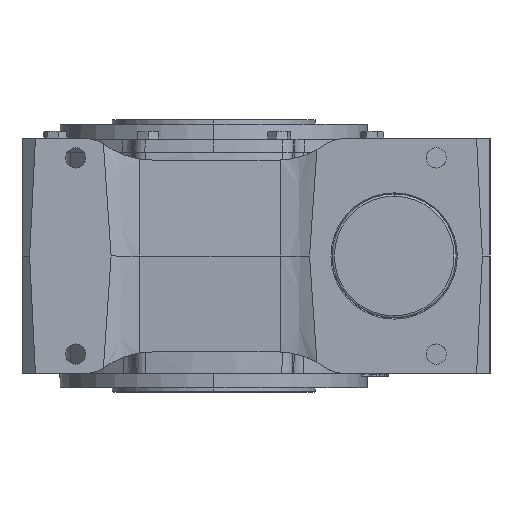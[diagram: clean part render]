
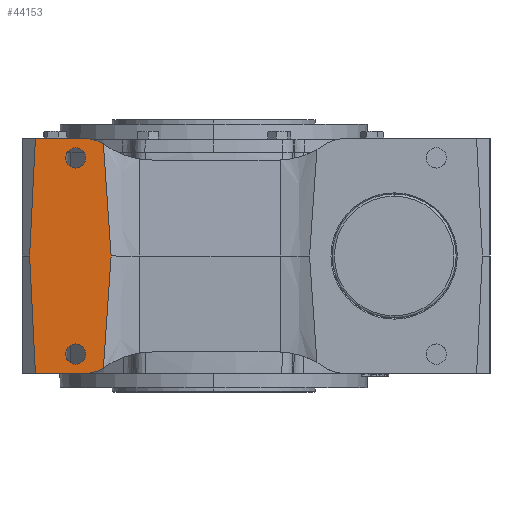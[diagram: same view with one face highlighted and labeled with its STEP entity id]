
A CAD part, left-side view. The second image highlights one B-rep face of the part: STEP entity #44153.
In plain terms, the highlighted planar face has unit normal (-1, 0, 0).
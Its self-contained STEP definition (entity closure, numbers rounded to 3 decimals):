
#3285 = EDGE_LOOP ( 'NONE', ( #31544, #20639 ) ) ;
#6753 = CARTESIAN_POINT ( 'NONE',  ( -170., 122.5, 78. ) ) ;
#10464 = AXIS2_PLACEMENT_3D ( 'NONE', #34546, #86710, #42084 ) ;
#11167 = CARTESIAN_POINT ( 'NONE',  ( -170., 163.234, 0. ) ) ;
#11249 = VERTEX_POINT ( 'NONE', #56914 ) ;
#11503 = AXIS2_PLACEMENT_3D ( 'NONE', #64126, #19492, #71647 ) ;
#13169 = DIRECTION ( 'NONE',  ( -1., 0., 0. ) ) ;
#15892 = CARTESIAN_POINT ( 'NONE',  ( -170., 91.006, 0. ) ) ;
#18156 = VERTEX_POINT ( 'NONE', #20818 ) ;
#19492 = DIRECTION ( 'NONE',  ( -1., 0., 0. ) ) ;
#19786 = VECTOR ( 'NONE', #31180, 1000. ) ;
#20088 = DIRECTION ( 'NONE',  ( 0., -0.049, 0.999 ) ) ;
#20639 = ORIENTED_EDGE ( 'NONE', *, *, #68352, .F. ) ;
#20818 = CARTESIAN_POINT ( 'NONE',  ( -170., 122.5, -78. ) ) ;
#22950 = CARTESIAN_POINT ( 'NONE',  ( -170., 91.006, 0. ) ) ;
#23999 = VERTEX_POINT ( 'NONE', #38715 ) ;
#24427 = CARTESIAN_POINT ( 'NONE',  ( -170., 93.44, -33.115 ) ) ;
#25382 = VERTEX_POINT ( 'NONE', #41589 ) ;
#27814 = ORIENTED_EDGE ( 'NONE', *, *, #68005, .F. ) ;
#28811 = CARTESIAN_POINT ( 'NONE',  ( -170., 122.5, 87. ) ) ;
#29130 = VERTEX_POINT ( 'NONE', #52872 ) ;
#30592 = VECTOR ( 'NONE', #20088, 1000. ) ;
#30864 = EDGE_LOOP ( 'NONE', ( #72453, #94713, #27814, #48026, #67963, #84756, #78369, #86272 ) ) ;
#30873 = CARTESIAN_POINT ( 'NONE',  ( -170., 95.711, 66.242 ) ) ;
#31180 = DIRECTION ( 'NONE',  ( 0., 1., 0. ) ) ;
#31434 = VERTEX_POINT ( 'NONE', #54899 ) ;
#31544 = ORIENTED_EDGE ( 'NONE', *, *, #33011, .F. ) ;
#31830 = CIRCLE ( 'NONE', #76013, 9. ) ;
#31923 = CARTESIAN_POINT ( 'NONE',  ( -170., 96.799, -82.808 ) ) ;
#33011 = EDGE_CURVE ( 'NONE', #31434, #92208, #31830, .T. ) ;
#34546 = CARTESIAN_POINT ( 'NONE',  ( -170., 113.851, 74. ) ) ;
#35657 = CIRCLE ( 'NONE', #10464, 30. ) ;
#36296 = DIRECTION ( 'NONE',  ( 0., 0., 1. ) ) ;
#36872 = CARTESIAN_POINT ( 'NONE',  ( -170., 113.851, -74. ) ) ;
#37743 = EDGE_CURVE ( 'NONE', #18156, #29130, #54098, .T. ) ;
#38401 = CARTESIAN_POINT ( 'NONE',  ( -170., 97.852, 99.377 ) ) ;
#38715 = CARTESIAN_POINT ( 'NONE',  ( -170., 97.852, 99.377 ) ) ;
#39492 = CARTESIAN_POINT ( 'NONE',  ( -170., 170., 149. ) ) ;
#39712 = VECTOR ( 'NONE', #66507, 1000. ) ;
#41227 = EDGE_CURVE ( 'NONE', #29130, #18156, #67656, .T. ) ;
#41589 = CARTESIAN_POINT ( 'NONE',  ( -170., 113.851, -104. ) ) ;
#41760 = EDGE_CURVE ( 'NONE', #25382, #49657, #41965, .T. ) ;
#41965 = LINE ( 'NONE', #46193, #19786 ) ;
#42067 = LINE ( 'NONE', #59029, #39712 ) ;
#42084 = DIRECTION ( 'NONE',  ( 0., 1., 0. ) ) ;
#42593 = DIRECTION ( 'NONE',  ( -1., 0., 0. ) ) ;
#42612 = AXIS2_PLACEMENT_3D ( 'NONE', #87218, #42593, #94722 ) ;
#44153 = ADVANCED_FACE ( 'NONE', ( #91790, #59177, #54493 ), #61954, .F. ) ;
#44403 = DIRECTION ( 'NONE',  ( 0., 1., 0. ) ) ;
#44615 = CARTESIAN_POINT ( 'NONE',  ( -170., 113.851, 104. ) ) ;
#46193 = CARTESIAN_POINT ( 'NONE',  ( -170., 64.974, -104. ) ) ;
#46229 = CARTESIAN_POINT ( 'NONE',  ( -170., 158.098, 104. ) ) ;
#46480 = EDGE_CURVE ( 'NONE', #95025, #11249, #92835, .T. ) ;
#47313 = DIRECTION ( 'NONE',  ( 0., 1., 0. ) ) ;
#48026 = ORIENTED_EDGE ( 'NONE', *, *, #89949, .F. ) ;
#48654 = ORIENTED_EDGE ( 'NONE', *, *, #37743, .F. ) ;
#48926 = AXIS2_PLACEMENT_3D ( 'NONE', #36872, #89036, #44403 ) ;
#49657 = VERTEX_POINT ( 'NONE', #86255 ) ;
#50135 = VERTEX_POINT ( 'NONE', #11167 ) ;
#50654 = LINE ( 'NONE', #52347, #87974 ) ;
#52347 = CARTESIAN_POINT ( 'NONE',  ( -170., 158.159, -102.763 ) ) ;
#52872 = CARTESIAN_POINT ( 'NONE',  ( -170., 122.5, -96. ) ) ;
#54098 = CIRCLE ( 'NONE', #42612, 9. ) ;
#54493 = FACE_OUTER_BOUND ( 'NONE', #30864, .T. ) ;
#54899 = CARTESIAN_POINT ( 'NONE',  ( -170., 122.5, 96. ) ) ;
#56914 = CARTESIAN_POINT ( 'NONE',  ( -170., 97.852, -99.377 ) ) ;
#57781 = B_SPLINE_CURVE_WITH_KNOTS ( 'NONE', 3,
 ( #15892, #60554, #75547, #30873, #83019, #38401 ),
 .UNSPECIFIED., .F., .F.,
 ( 4, 2, 4 ),
 ( 0.098, 0.147, 0.197 ),
 .UNSPECIFIED. ) ;
#57815 = CARTESIAN_POINT ( 'NONE',  ( -170., 122.5, -87. ) ) ;
#58598 = ORIENTED_EDGE ( 'NONE', *, *, #41227, .F. ) ;
#59029 = CARTESIAN_POINT ( 'NONE',  ( -170., 64.974, 104. ) ) ;
#59177 = FACE_BOUND ( 'NONE', #3285, .T. ) ;
#59844 = DIRECTION ( 'NONE',  ( 0., -0.049, -0.999 ) ) ;
#60554 = CARTESIAN_POINT ( 'NONE',  ( -170., 92.258, 16.555 ) ) ;
#61406 = EDGE_LOOP ( 'NONE', ( #48654, #58598 ) ) ;
#61591 = CARTESIAN_POINT ( 'NONE',  ( -170., 91.006, 0. ) ) ;
#61954 = PLANE ( 'NONE',  #91136 ) ;
#63274 = EDGE_CURVE ( 'NONE', #23999, #94480, #35657, .T. ) ;
#63591 = VERTEX_POINT ( 'NONE', #46229 ) ;
#64126 = CARTESIAN_POINT ( 'NONE',  ( -170., 122.5, 87. ) ) ;
#65299 = DIRECTION ( 'NONE',  ( 0., 0., 1. ) ) ;
#66507 = DIRECTION ( 'NONE',  ( 0., -1., 0. ) ) ;
#67656 = CIRCLE ( 'NONE', #81599, 9. ) ;
#67963 = ORIENTED_EDGE ( 'NONE', *, *, #85012, .T. ) ;
#68005 = EDGE_CURVE ( 'NONE', #63591, #94480, #42067, .T. ) ;
#68352 = EDGE_CURVE ( 'NONE', #92208, #31434, #92190, .T. ) ;
#68741 = CARTESIAN_POINT ( 'NONE',  ( -170., 92.258, -16.555 ) ) ;
#71647 = DIRECTION ( 'NONE',  ( 0., 0., 1. ) ) ;
#72453 = ORIENTED_EDGE ( 'NONE', *, *, #89707, .T. ) ;
#72593 = LINE ( 'NONE', #79739, #30592 ) ;
#75547 = CARTESIAN_POINT ( 'NONE',  ( -170., 93.44, 33.115 ) ) ;
#76013 = AXIS2_PLACEMENT_3D ( 'NONE', #28811, #80966, #36296 ) ;
#76612 = CARTESIAN_POINT ( 'NONE',  ( -170., 95.711, -66.242 ) ) ;
#77662 = EDGE_CURVE ( 'NONE', #25382, #11249, #93459, .T. ) ;
#78369 = ORIENTED_EDGE ( 'NONE', *, *, #77662, .T. ) ;
#79739 = CARTESIAN_POINT ( 'NONE',  ( -170., 158.159, 102.763 ) ) ;
#80966 = DIRECTION ( 'NONE',  ( -1., 0., 0. ) ) ;
#81599 = AXIS2_PLACEMENT_3D ( 'NONE', #57815, #13169, #65299 ) ;
#83019 = CARTESIAN_POINT ( 'NONE',  ( -170., 96.799, 82.809 ) ) ;
#84087 = CARTESIAN_POINT ( 'NONE',  ( -170., 97.852, -99.377 ) ) ;
#84756 = ORIENTED_EDGE ( 'NONE', *, *, #41760, .F. ) ;
#85012 = EDGE_CURVE ( 'NONE', #50135, #49657, #50654, .T. ) ;
#86255 = CARTESIAN_POINT ( 'NONE',  ( -170., 158.098, -104. ) ) ;
#86272 = ORIENTED_EDGE ( 'NONE', *, *, #46480, .F. ) ;
#86710 = DIRECTION ( 'NONE',  ( -1., 0., 0. ) ) ;
#87218 = CARTESIAN_POINT ( 'NONE',  ( -170., 122.5, -87. ) ) ;
#87974 = VECTOR ( 'NONE', #59844, 1000. ) ;
#89036 = DIRECTION ( 'NONE',  ( -1., 0., 0. ) ) ;
#89707 = EDGE_CURVE ( 'NONE', #95025, #23999, #57781, .T. ) ;
#89949 = EDGE_CURVE ( 'NONE', #50135, #63591, #72593, .T. ) ;
#91136 = AXIS2_PLACEMENT_3D ( 'NONE', #39492, #91948, #47313 ) ;
#91790 = FACE_BOUND ( 'NONE', #61406, .T. ) ;
#91948 = DIRECTION ( 'NONE',  ( 1., 0., 0. ) ) ;
#92190 = CIRCLE ( 'NONE', #11503, 9. ) ;
#92208 = VERTEX_POINT ( 'NONE', #6753 ) ;
#92835 = B_SPLINE_CURVE_WITH_KNOTS ( 'NONE', 3,
 ( #61591, #68741, #24427, #76612, #31923, #84087 ),
 .UNSPECIFIED., .F., .F.,
 ( 4, 2, 4 ),
 ( 0.135, 0.184, 0.234 ),
 .UNSPECIFIED. ) ;
#93459 = CIRCLE ( 'NONE', #48926, 30. ) ;
#94480 = VERTEX_POINT ( 'NONE', #44615 ) ;
#94713 = ORIENTED_EDGE ( 'NONE', *, *, #63274, .T. ) ;
#94722 = DIRECTION ( 'NONE',  ( 0., 0., 1. ) ) ;
#95025 = VERTEX_POINT ( 'NONE', #22950 ) ;
